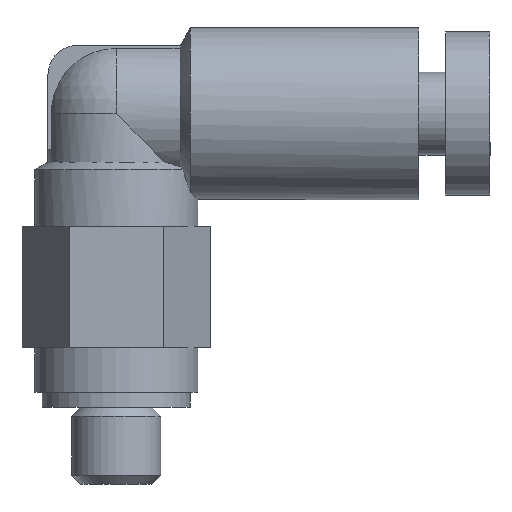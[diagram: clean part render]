
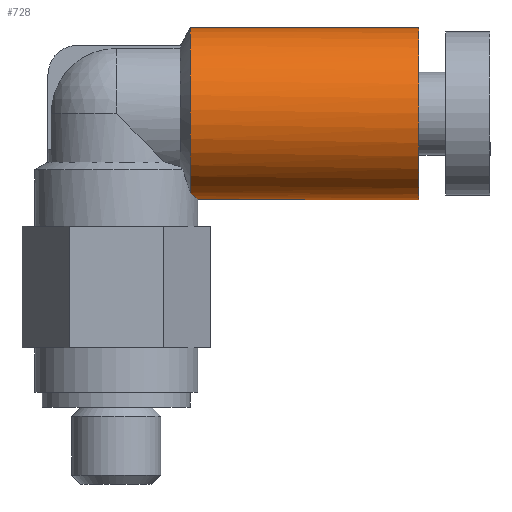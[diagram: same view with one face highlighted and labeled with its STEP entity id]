
A CAD part, top view. The second image highlights one B-rep face of the part: STEP entity #728.
In plain terms, the highlighted cylindrical face has radius 2.9 mm (diameter 5.8 mm), a full revolution.
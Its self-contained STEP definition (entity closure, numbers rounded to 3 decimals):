
#64=B_SPLINE_CURVE_WITH_KNOTS('',3,(#1169,#1170,#1171,#1172,#1173),
 .UNSPECIFIED.,.F.,.F.,(4,1,4),(0.002,0.003,
0.004),.UNSPECIFIED.);
#300=ORIENTED_EDGE('',*,*,#429,.F.);
#301=ORIENTED_EDGE('',*,*,#370,.T.);
#302=ORIENTED_EDGE('',*,*,#382,.T.);
#370=EDGE_CURVE('',#466,#465,#522,.T.);
#382=EDGE_CURVE('',#465,#466,#64,.T.);
#429=EDGE_CURVE('',#500,#500,#545,.T.);
#465=VERTEX_POINT('',#1134);
#466=VERTEX_POINT('',#1136);
#500=VERTEX_POINT('',#1276);
#522=CIRCLE('',#771,2.9);
#545=CIRCLE('',#825,2.9);
#596=EDGE_LOOP('',(#300));
#597=EDGE_LOOP('',(#301,#302));
#660=FACE_BOUND('',#596,.T.);
#661=FACE_BOUND('',#597,.T.);
#689=CYLINDRICAL_SURFACE('',#824,2.9);
#728=ADVANCED_FACE('',(#660,#661),#689,.T.);
#771=AXIS2_PLACEMENT_3D('',#1135,#883,#884);
#824=AXIS2_PLACEMENT_3D('',#1274,#1020,#1021);
#825=AXIS2_PLACEMENT_3D('',#1275,#1022,#1023);
#883=DIRECTION('',(1.,0.,0.));
#884=DIRECTION('',(0.,0.,-1.));
#1020=DIRECTION('',(1.,0.,0.));
#1021=DIRECTION('',(0.,0.,-1.));
#1022=DIRECTION('',(1.,0.,0.));
#1023=DIRECTION('',(0.,0.,-1.));
#1134=CARTESIAN_POINT('',(2.5,7.236,1.146));
#1135=CARTESIAN_POINT('',(2.5,9.9,0.));
#1136=CARTESIAN_POINT('',(2.5,7.236,-1.146));
#1169=CARTESIAN_POINT('',(2.5,7.236,1.146));
#1170=CARTESIAN_POINT('',(2.656,7.089,0.805));
#1171=CARTESIAN_POINT('',(2.843,6.911,0.002));
#1172=CARTESIAN_POINT('',(2.657,7.088,-0.803));
#1173=CARTESIAN_POINT('',(2.5,7.236,-1.146));
#1274=CARTESIAN_POINT('',(12.6,9.9,0.));
#1275=CARTESIAN_POINT('',(10.2,9.9,0.));
#1276=CARTESIAN_POINT('',(10.2,9.9,-2.9));
